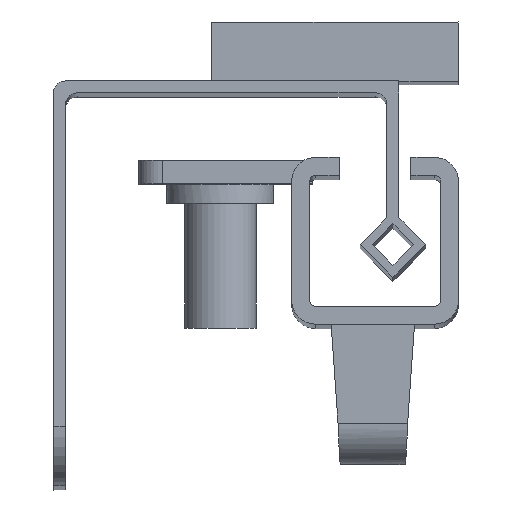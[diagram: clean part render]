
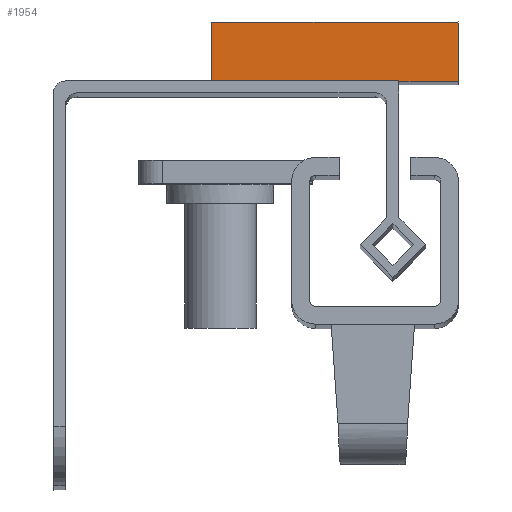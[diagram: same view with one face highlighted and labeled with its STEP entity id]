
A CAD part, top view. The second image highlights one B-rep face of the part: STEP entity #1954.
In plain terms, the highlighted planar face has unit normal (0, 0, 1).
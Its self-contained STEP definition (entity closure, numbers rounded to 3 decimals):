
#308=FACE_OUTER_BOUND('',#428,.T.);
#428=EDGE_LOOP('',(#1597,#1598,#1599,#1600,#1601));
#652=LINE('',#3130,#812);
#654=LINE('',#3134,#814);
#655=LINE('',#3136,#815);
#656=LINE('',#3138,#816);
#657=LINE('',#3139,#817);
#812=VECTOR('',#2496,10.);
#814=VECTOR('',#2500,10.);
#815=VECTOR('',#2501,10.);
#816=VECTOR('',#2502,10.);
#817=VECTOR('',#2503,10.);
#966=VERTEX_POINT('',#3127);
#967=VERTEX_POINT('',#3129);
#968=VERTEX_POINT('',#3133);
#969=VERTEX_POINT('',#3135);
#970=VERTEX_POINT('',#3137);
#1200=EDGE_CURVE('',#966,#967,#652,.T.);
#1202=EDGE_CURVE('',#966,#968,#654,.T.);
#1203=EDGE_CURVE('',#968,#969,#655,.T.);
#1204=EDGE_CURVE('',#969,#970,#656,.T.);
#1205=EDGE_CURVE('',#970,#967,#657,.T.);
#1597=ORIENTED_EDGE('',*,*,#1202,.T.);
#1598=ORIENTED_EDGE('',*,*,#1203,.T.);
#1599=ORIENTED_EDGE('',*,*,#1204,.T.);
#1600=ORIENTED_EDGE('',*,*,#1205,.T.);
#1601=ORIENTED_EDGE('',*,*,#1200,.F.);
#1875=PLANE('',#2100);
#1954=ADVANCED_FACE('',(#308),#1875,.F.);
#2100=AXIS2_PLACEMENT_3D('',#3132,#2498,#2499);
#2496=DIRECTION('',(0.,1.,0.));
#2498=DIRECTION('center_axis',(0.,0.,
-1.));
#2499=DIRECTION('ref_axis',(-1.,0.,0.));
#2500=DIRECTION('',(1.,0.,0.));
#2501=DIRECTION('',(1.,0.,0.));
#2502=DIRECTION('',(0.,1.,0.));
#2503=DIRECTION('',(-1.,0.,0.));
#3127=CARTESIAN_POINT('',(8.526,46.147,165.975));
#3129=CARTESIAN_POINT('',(8.526,51.147,165.975));
#3130=CARTESIAN_POINT('',(8.526,46.147,165.975));
#3132=CARTESIAN_POINT('Origin',(29.248,46.147,165.975));
#3133=CARTESIAN_POINT('',(24.248,46.147,165.975));
#3134=CARTESIAN_POINT('',(12.248,46.147,165.975));
#3135=CARTESIAN_POINT('',(29.248,46.147,165.975));
#3136=CARTESIAN_POINT('',(8.526,46.147,165.975));
#3137=CARTESIAN_POINT('',(29.248,51.147,165.975));
#3138=CARTESIAN_POINT('',(29.248,46.147,165.975));
#3139=CARTESIAN_POINT('',(8.526,51.147,165.975));
